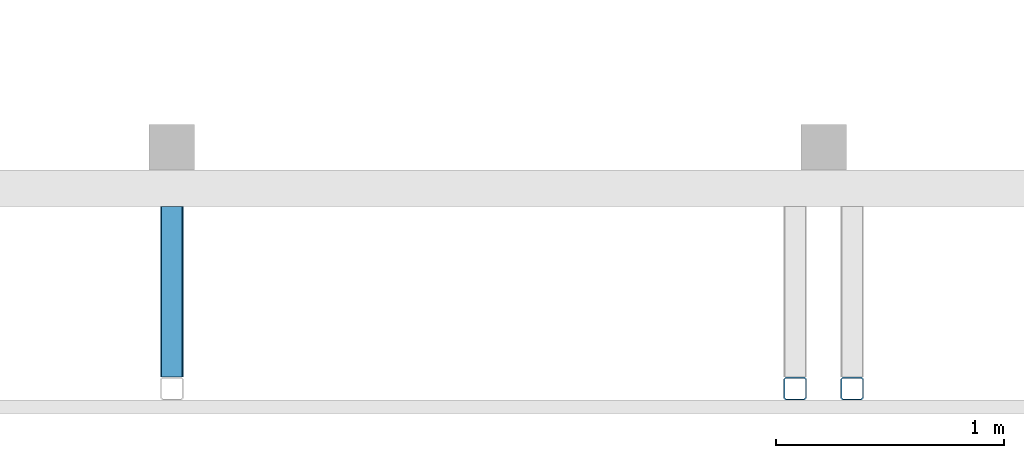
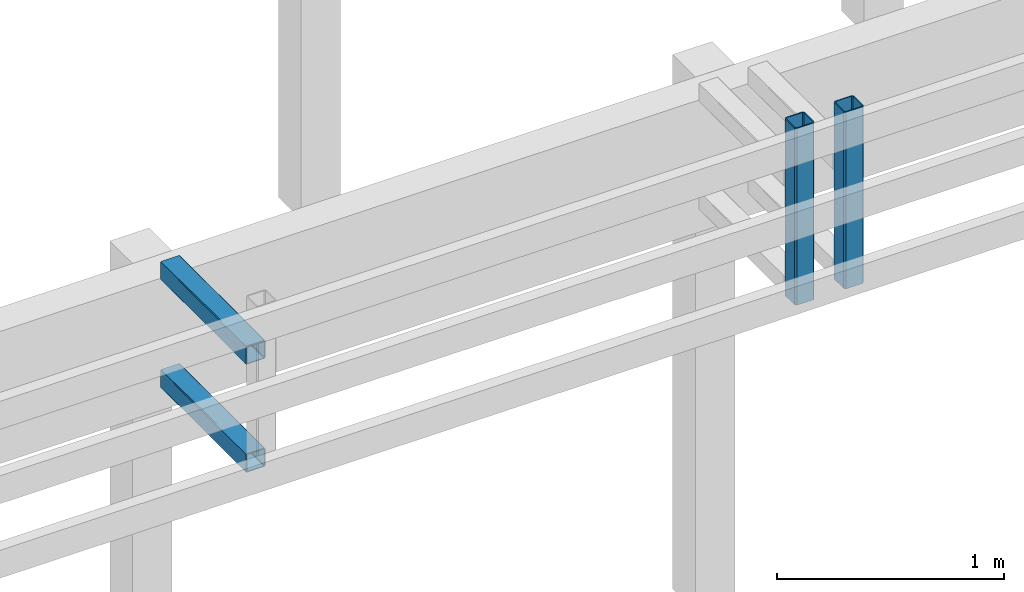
# One storey, part 5 of 42: 4 members.
"""IFC4 building model written with IfcOpenShell, lengths in metres."""

from ifc_helpers import new_model, entity, si_unit, converted_unit, derived_unit, frame, origin, place, context, subcontext, project, spatial, faceted_brep, material, element, save


model = new_model("IFC4")

# Units and contexts
model_context = context("Model", 3, precision=1e-05, world=origin())
plan_context = context("Plan", 2, precision=1e-05, world=origin())
body_context = subcontext(model_context, "Body", "Model", "MODEL_VIEW")
ifc_project = project(units=[si_unit("LENGTHUNIT", "METRE"), si_unit("AREAUNIT", "SQUARE_METRE"), si_unit("VOLUMEUNIT", "CUBIC_METRE"), si_unit("MASSUNIT", "GRAM", prefix="KILO"), converted_unit("PLANEANGLEUNIT", "DEGREE", entity("IfcPlaneAngleMeasure", 0.0174532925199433), si_unit("PLANEANGLEUNIT", "RADIAN"), dimensions=[0, 0, 0, 0, 0, 0, 0]), derived_unit("THERMALTRANSMITTANCEUNIT", [(si_unit("POWERUNIT", "WATT"), 1), (si_unit("THERMODYNAMICTEMPERATUREUNIT", "KELVIN"), -1), (si_unit("LENGTHUNIT", "METRE"), -2)]), derived_unit("VOLUMETRICFLOWRATEUNIT", [(si_unit("LENGTHUNIT", "METRE"), 3), (converted_unit("TIMEUNIT", "hour", entity("IfcTimeMeasure", 3600.0), si_unit("TIMEUNIT", "SECOND"), dimensions=[0, 0, 1, 0, 0, 0, 0]), -1), (si_unit("LENGTHUNIT", "METRE"), -1)])], contexts=[model_context, plan_context])

# Site, building, storey
site_placement = place(None, origin())
site = spatial("IfcSite", under=ifc_project, at=site_placement, Name="Site", CompositionType="ELEMENT")
building_placement = place(site_placement, origin())
building = spatial("IfcBuilding", under=site, at=building_placement, Name="Admin", CompositionType="ELEMENT")
storey_placement = place(building_placement, frame((0.0, 0.0, 6.61)))
storey = spatial("IfcBuildingStorey", under=building, at=storey_placement, Name="02-Etage2", CompositionType="ELEMENT", Elevation=6.61)

# Members
ifc_material_1 = material(Name="S235")
member_1_placement = place(storey_placement, frame((29.7448010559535, 11.0194493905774, 2.28)))
element("IfcMember", 1, at=member_1_placement, inside=storey, material=ifc_material_1, Name="Bandeau R+2", context=body_context, shape_type="Brep", body=[
    faceted_brep([(0.01, 0.095, 0.0), (0.01, 0.095, 0.95), (0.09, 0.095, 0.95), (0.09, 0.095, 0.0), (0.005, 0.09, 0.0), (0.005, 0.09, 0.95), (0.005, 0.01, 0.0), (0.005, 0.01, 0.95), (0.01, 0.005, 0.0), (0.01, 0.005, 0.95), (0.09, 0.005, 0.0), (0.09, 0.005, 0.95), (0.095, 0.01, 0.0), (0.095, 0.01, 0.95), (0.095, 0.09, 0.0), (0.095, 0.09, 0.95), (0.1, 0.0925, 0.0), (0.1, 0.0925, 0.95), (0.0925, 0.1, 0.95), (0.0925, 0.1, 0.0), (0.1, 0.0075, 0.0), (0.1, 0.0075, 0.95), (0.0925, 0.0, 0.0), (0.0925, 0.0, 0.95), (0.0075, 0.0, 0.0), (0.0075, 0.0, 0.95), (0.0, 0.0075, 0.0), (0.0, 0.0075, 0.95), (0.0, 0.0925, 0.0), (0.0, 0.0925, 0.95), (0.0075, 0.1, 0.0), (0.0075, 0.1, 0.95)], [[[0, 1, 2, 3]], [[4, 5, 1, 0]], [[6, 7, 5, 4]], [[8, 9, 7, 6]], [[10, 11, 9, 8]], [[12, 13, 11, 10]], [[14, 15, 13, 12]], [[3, 2, 15, 14]], [[16, 17, 18, 19]], [[20, 21, 17, 16]], [[22, 23, 21, 20]], [[24, 25, 23, 22]], [[26, 27, 25, 24]], [[28, 29, 27, 26]], [[30, 31, 29, 28]], [[19, 18, 31, 30]], [[18, 17, 21, 23, 25, 27, 29, 31], [2, 1, 5, 7, 9, 11, 13, 15]], [[19, 30, 28, 26, 24, 22, 20, 16], [3, 14, 12, 10, 8, 6, 4, 0]]], orient=[[False], [False], [False], [False], [False], [False], [False], [False], [False], [False], [False], [False], [False], [False], [False], [False], [False, False], [False, False]]),
])
ifc_material_2 = material(Name="S235")
member_2_placement = place(storey_placement, frame((29.4948010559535, 11.0194493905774, 2.28)))
element("IfcMember", 2, at=member_2_placement, inside=storey, material=ifc_material_2, Name="Bandeau R+2", context=body_context, shape_type="Brep", body=[
    faceted_brep([(0.01, 0.095, 0.0), (0.01, 0.095, 0.95), (0.09, 0.095, 0.95), (0.09, 0.095, 0.0), (0.005, 0.09, 0.0), (0.005, 0.09, 0.95), (0.005, 0.01, 0.0), (0.005, 0.01, 0.95), (0.01, 0.005, 0.0), (0.01, 0.005, 0.95), (0.09, 0.005, 0.0), (0.09, 0.005, 0.95), (0.095, 0.01, 0.0), (0.095, 0.01, 0.95), (0.095, 0.09, 0.0), (0.095, 0.09, 0.95), (0.1, 0.0925, 0.0), (0.1, 0.0925, 0.95), (0.0925, 0.1, 0.95), (0.0925, 0.1, 0.0), (0.1, 0.0075, 0.0), (0.1, 0.0075, 0.95), (0.0925, 0.0, 0.0), (0.0925, 0.0, 0.95), (0.0075, 0.0, 0.0), (0.0075, 0.0, 0.95), (0.0, 0.0075, 0.0), (0.0, 0.0075, 0.95), (0.0, 0.0925, 0.0), (0.0, 0.0925, 0.95), (0.0075, 0.1, 0.0), (0.0075, 0.1, 0.95)], [[[0, 1, 2, 3]], [[4, 5, 1, 0]], [[6, 7, 5, 4]], [[8, 9, 7, 6]], [[10, 11, 9, 8]], [[12, 13, 11, 10]], [[14, 15, 13, 12]], [[3, 2, 15, 14]], [[16, 17, 18, 19]], [[20, 21, 17, 16]], [[22, 23, 21, 20]], [[24, 25, 23, 22]], [[26, 27, 25, 24]], [[28, 29, 27, 26]], [[30, 31, 29, 28]], [[19, 18, 31, 30]], [[18, 17, 21, 23, 25, 27, 29, 31], [2, 1, 5, 7, 9, 11, 13, 15]], [[19, 30, 28, 26, 24, 22, 20, 16], [3, 14, 12, 10, 8, 6, 4, 0]]], orient=[[False], [False], [False], [False], [False], [False], [False], [False], [False], [False], [False], [False], [False], [False], [False], [False], [False, False], [False, False]]),
])
ifc_material_3 = material(Name="S235")
member_3_placement = place(storey_placement, frame((26.7598010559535, 11.1194493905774, 2.86)))
element("IfcMember", 3, at=member_3_placement, inside=storey, material=ifc_material_3, Name="Bandeau R+2", context=body_context, shape_type="Brep", body=[
    faceted_brep([(0.095, 0.0, 0.09), (0.095, 0.0, 0.01), (0.0950000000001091, 0.74999999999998, 0.01), (0.0950000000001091, 0.74999999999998, 0.09), (0.0949240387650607, 0.0, 0.0908682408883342), (0.0949240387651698, 0.74999999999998, 0.0908682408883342), (0.0946984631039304, 0.0, 0.0917101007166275), (0.0946984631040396, 0.74999999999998, 0.0917101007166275), (0.0943301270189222, 0.0, 0.0925), (0.0943301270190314, 0.74999999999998, 0.0925), (0.0938302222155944, 0.0, 0.0932139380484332), (0.0938302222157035, 0.74999999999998, 0.0932139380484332), (0.0932139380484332, 1.81898940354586e-15, 0.0938302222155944), (0.0932139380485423, 0.749999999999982, 0.0938302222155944), (0.0925, 1.81898940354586e-15, 0.0943301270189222), (0.0925000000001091, 0.749999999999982, 0.0943301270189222), (0.0917101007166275, 1.81898940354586e-15, 0.0946984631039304), (0.0917101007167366, 0.749999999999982, 0.0946984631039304), (0.090868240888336, 1.81898940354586e-15, 0.0949240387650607), (0.0908682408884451, 0.749999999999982, 0.0949240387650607), (0.09, 1.81898940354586e-15, 0.095), (0.0900000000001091, 0.749999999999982, 0.095), (0.01, 1.2732925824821e-14, 0.095), (0.0100000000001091, 0.749999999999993, 0.095), (0.009131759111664, 1.2732925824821e-14, 0.0949240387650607), (0.00913175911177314, 0.749999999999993, 0.0949240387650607), (0.00828989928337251, 1.2732925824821e-14, 0.0946984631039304), (0.00828989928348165, 0.749999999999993, 0.0946984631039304), (0.0075, 1.2732925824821e-14, 0.0943301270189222), (0.00750000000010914, 0.749999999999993, 0.0943301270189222), (0.00678606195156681, 1.2732925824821e-14, 0.0938302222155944), (0.00678606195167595, 0.749999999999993, 0.0938302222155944), (0.0061697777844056, 1.45519152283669e-14, 0.0932139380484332), (0.00616977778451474, 0.749999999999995, 0.0932139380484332), (0.00566987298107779, 1.45519152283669e-14, 0.0925), (0.00566987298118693, 0.749999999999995, 0.0925), (0.00530153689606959, 1.45519152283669e-14, 0.0917101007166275), (0.00530153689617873, 0.749999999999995, 0.0917101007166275), (0.00507596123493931, 1.45519152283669e-14, 0.0908682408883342), (0.00507596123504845, 0.749999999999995, 0.0908682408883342), (0.005, 1.45519152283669e-14, 0.09), (0.00500000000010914, 0.749999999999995, 0.09), (0.005, 1.45519152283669e-14, 0.01), (0.00500000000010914, 0.749999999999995, 0.01), (0.00507596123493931, 1.45519152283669e-14, 0.00913175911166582), (0.00507596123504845, 0.749999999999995, 0.00913175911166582), (0.00530153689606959, 1.45519152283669e-14, 0.00828989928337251), (0.00530153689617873, 0.749999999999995, 0.00828989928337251), (0.00566987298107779, 1.45519152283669e-14, 0.0075), (0.00566987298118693, 0.749999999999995, 0.0075), (0.0061697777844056, 1.45519152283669e-14, 0.00678606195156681), (0.00616977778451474, 0.749999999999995, 0.00678606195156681), (0.00678606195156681, 1.2732925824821e-14, 0.0061697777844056), (0.00678606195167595, 0.749999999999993, 0.0061697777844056), (0.0075, 1.2732925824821e-14, 0.00566987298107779), (0.00750000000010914, 0.749999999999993, 0.00566987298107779), (0.00828989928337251, 1.2732925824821e-14, 0.00530153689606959), (0.00828989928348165, 0.749999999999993, 0.00530153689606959), (0.009131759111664, 1.2732925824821e-14, 0.00507596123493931), (0.00913175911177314, 0.749999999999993, 0.00507596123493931), (0.01, 1.2732925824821e-14, 0.005), (0.0100000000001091, 0.749999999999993, 0.005), (0.09, 1.81898940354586e-15, 0.005), (0.0900000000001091, 0.749999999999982, 0.005), (0.090868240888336, 1.81898940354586e-15, 0.00507596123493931), (0.0908682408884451, 0.749999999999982, 0.00507596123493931), (0.0917101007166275, 1.81898940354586e-15, 0.00530153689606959), (0.0917101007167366, 0.749999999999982, 0.00530153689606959), (0.0925, 1.81898940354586e-15, 0.00566987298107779), (0.0925000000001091, 0.749999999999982, 0.00566987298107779), (0.0932139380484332, 1.81898940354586e-15, 0.0061697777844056), (0.0932139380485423, 0.749999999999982, 0.0061697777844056), (0.0938302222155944, 0.0, 0.00678606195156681), (0.0938302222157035, 0.74999999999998, 0.00678606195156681), (0.0943301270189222, 0.0, 0.0075), (0.0943301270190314, 0.74999999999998, 0.0075), (0.0946984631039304, 0.0, 0.00828989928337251), (0.0946984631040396, 0.74999999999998, 0.00828989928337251), (0.0949240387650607, 0.0, 0.00913175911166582), (0.0949240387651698, 0.74999999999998, 0.00913175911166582), (0.0075, 1.2732925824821e-14, 0.1), (0.00619763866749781, 1.45519152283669e-14, 0.099886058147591), (0.00619763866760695, 0.749999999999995, 0.099886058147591), (0.00750000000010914, 0.749999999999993, 0.1), (0.0925, 1.81898940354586e-15, 0.1), (0.0925000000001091, 0.749999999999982, 0.1), (0.0938023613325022, 0.0, 0.099886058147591), (0.0938023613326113, 0.74999999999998, 0.099886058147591), (0.0950651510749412, 0.0, 0.0995476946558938), (0.0950651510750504, 0.74999999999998, 0.0995476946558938), (0.09625, 0.0, 0.0989951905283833), (0.0962500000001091, 0.74999999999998, 0.0989951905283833), (0.097320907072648, 0.0, 0.0982453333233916), (0.0973209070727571, 0.74999999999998, 0.0982453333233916), (0.0982453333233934, 0.0, 0.0973209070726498), (0.0982453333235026, 0.74999999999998, 0.0973209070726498), (0.0989951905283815, 0.0, 0.09625), (0.0989951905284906, 0.74999999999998, 0.09625), (0.0995476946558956, 0.0, 0.0950651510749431), (0.0995476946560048, 0.74999999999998, 0.0950651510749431), (0.0998860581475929, 0.0, 0.0938023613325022), (0.099886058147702, 0.74999999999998, 0.0938023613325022), (0.1, 0.0, 0.0925), (0.100000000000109, 0.74999999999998, 0.0925), (0.0998860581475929, 0.0, 0.00619763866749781), (0.1, 0.0, 0.0075), (0.100000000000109, 0.74999999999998, 0.0075), (0.099886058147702, 0.74999999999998, 0.00619763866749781), (0.0995476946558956, 0.0, 0.00493484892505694), (0.0995476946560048, 0.74999999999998, 0.00493484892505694), (0.0989951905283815, 0.0, 0.00375), (0.0989951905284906, 0.74999999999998, 0.00375), (0.0982453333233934, 0.0, 0.00267909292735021), (0.0982453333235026, 0.74999999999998, 0.00267909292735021), (0.097320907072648, 0.0, 0.00175466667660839), (0.0973209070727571, 0.74999999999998, 0.00175466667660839), (0.09625, 0.0, 0.00100480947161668), (0.0962500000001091, 0.74999999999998, 0.00100480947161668), (0.0950651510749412, 0.0, 0.000452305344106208), (0.0950651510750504, 0.74999999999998, 0.000452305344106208), (0.0938023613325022, 0.0, 0.000113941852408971), (0.0938023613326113, 0.74999999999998, 0.000113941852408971), (0.0925, 1.81898940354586e-15, 0.0), (0.0925000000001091, 0.749999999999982, 0.0), (0.0075, 1.2732925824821e-14, 0.0), (0.00750000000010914, 0.749999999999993, 0.0), (0.00619763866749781, 1.45519152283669e-14, 0.000113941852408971), (0.00619763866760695, 0.749999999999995, 0.000113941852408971), (0.00493484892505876, 1.45519152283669e-14, 0.000452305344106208), (0.0049348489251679, 0.749999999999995, 0.000452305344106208), (0.00375, 1.45519152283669e-14, 0.00100480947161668), (0.00375000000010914, 0.749999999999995, 0.00100480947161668), (0.00267909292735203, 1.45519152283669e-14, 0.00175466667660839), (0.00267909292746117, 0.749999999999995, 0.00175466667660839), (0.00175466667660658, 1.45519152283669e-14, 0.00267909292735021), (0.00175466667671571, 0.749999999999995, 0.00267909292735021), (0.0010048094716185, 1.45519152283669e-14, 0.00375), (0.00100480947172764, 0.749999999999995, 0.00375), (0.000452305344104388, 1.45519152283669e-14, 0.00493484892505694), (0.000452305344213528, 0.749999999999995, 0.00493484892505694), (0.000113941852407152, 1.45519152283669e-14, 0.00619763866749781), (0.000113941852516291, 0.749999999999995, 0.00619763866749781), (0.0, 0.0, 0.0075), (1.09139364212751e-13, 0.749999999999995, 0.0075), (0.000113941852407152, 1.45519152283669e-14, 0.0938023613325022), (0.0, 0.0, 0.0925), (1.09139364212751e-13, 0.749999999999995, 0.0925), (0.000113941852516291, 0.749999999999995, 0.0938023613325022), (0.000452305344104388, 1.45519152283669e-14, 0.0950651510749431), (0.000452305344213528, 0.749999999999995, 0.0950651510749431), (0.0010048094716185, 1.45519152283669e-14, 0.09625), (0.00100480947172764, 0.749999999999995, 0.09625), (0.00175466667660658, 1.45519152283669e-14, 0.0973209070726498), (0.00175466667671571, 0.749999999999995, 0.0973209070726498), (0.00267909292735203, 1.45519152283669e-14, 0.0982453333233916), (0.00267909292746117, 0.749999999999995, 0.0982453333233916), (0.00375, 1.45519152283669e-14, 0.0989951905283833), (0.00375000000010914, 0.749999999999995, 0.0989951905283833), (0.00493484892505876, 1.45519152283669e-14, 0.0995476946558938), (0.0049348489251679, 0.749999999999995, 0.0995476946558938)], [[[0, 1, 2, 3]], [[4, 0, 3, 5]], [[6, 4, 5, 7]], [[8, 6, 7, 9]], [[10, 8, 9, 11]], [[12, 10, 11, 13]], [[14, 12, 13, 15]], [[16, 14, 15, 17]], [[18, 16, 17, 19]], [[20, 18, 19, 21]], [[22, 20, 21, 23]], [[24, 22, 23, 25]], [[26, 24, 25, 27]], [[28, 26, 27, 29]], [[30, 28, 29, 31]], [[32, 30, 31, 33]], [[34, 32, 33, 35]], [[36, 34, 35, 37]], [[38, 36, 37, 39]], [[40, 38, 39, 41]], [[42, 40, 41, 43]], [[44, 42, 43, 45]], [[46, 44, 45, 47]], [[48, 46, 47, 49]], [[50, 48, 49, 51]], [[52, 50, 51, 53]], [[54, 52, 53, 55]], [[56, 54, 55, 57]], [[58, 56, 57, 59]], [[60, 58, 59, 61]], [[62, 60, 61, 63]], [[64, 62, 63, 65]], [[66, 64, 65, 67]], [[68, 66, 67, 69]], [[70, 68, 69, 71]], [[72, 70, 71, 73]], [[74, 72, 73, 75]], [[76, 74, 75, 77]], [[78, 76, 77, 79]], [[1, 78, 79, 2]], [[80, 81, 82, 83]], [[84, 80, 83, 85]], [[86, 84, 85, 87]], [[88, 86, 87, 89]], [[90, 88, 89, 91]], [[92, 90, 91, 93]], [[94, 92, 93, 95]], [[96, 94, 95, 97]], [[98, 96, 97, 99]], [[100, 98, 99, 101]], [[102, 100, 101, 103]], [[104, 105, 106, 107]], [[108, 104, 107, 109]], [[110, 108, 109, 111]], [[112, 110, 111, 113]], [[114, 112, 113, 115]], [[116, 114, 115, 117]], [[118, 116, 117, 119]], [[120, 118, 119, 121]], [[122, 120, 121, 123]], [[124, 122, 123, 125]], [[126, 124, 125, 127]], [[128, 126, 127, 129]], [[130, 128, 129, 131]], [[132, 130, 131, 133]], [[134, 132, 133, 135]], [[136, 134, 135, 137]], [[138, 136, 137, 139]], [[140, 138, 139, 141]], [[142, 140, 141, 143]], [[144, 145, 146, 147]], [[148, 144, 147, 149]], [[150, 148, 149, 151]], [[152, 150, 151, 153]], [[154, 152, 153, 155]], [[156, 154, 155, 157]], [[158, 156, 157, 159]], [[81, 158, 159, 82]], [[146, 143, 141, 139, 137, 135, 133, 131, 129, 127, 125, 123, 121, 119, 117, 115, 113, 111, 109, 107, 106, 103, 101, 99, 97, 95, 93, 91, 89, 87, 85, 83, 82, 159, 157, 155, 153, 151, 149, 147], [2, 79, 77, 75, 73, 71, 69, 67, 65, 63, 61, 59, 57, 55, 53, 51, 49, 47, 45, 43, 41, 39, 37, 35, 33, 31, 29, 27, 25, 23, 21, 19, 17, 15, 13, 11, 9, 7, 5, 3]], [[103, 106, 105, 102]], [[102, 105, 104, 108, 110, 112, 114, 116, 118, 120, 122, 124, 126, 128, 130, 132, 134, 136, 138, 140, 142, 145, 144, 148, 150, 152, 154, 156, 158, 81, 80, 84, 86, 88, 90, 92, 94, 96, 98, 100], [1, 0, 4, 6, 8, 10, 12, 14, 16, 18, 20, 22, 24, 26, 28, 30, 32, 34, 36, 38, 40, 42, 44, 46, 48, 50, 52, 54, 56, 58, 60, 62, 64, 66, 68, 70, 72, 74, 76, 78]], [[145, 142, 143, 146]]], orient=[[False], [False], [False], [False], [False], [False], [False], [False], [False], [False], [False], [False], [False], [False], [False], [False], [False], [False], [False], [False], [False], [False], [False], [False], [False], [False], [False], [False], [False], [False], [False], [False], [False], [False], [False], [False], [False], [False], [False], [False], [False], [False], [False], [False], [False], [False], [False], [False], [False], [False], [False], [False], [False], [False], [False], [False], [False], [False], [False], [False], [False], [False], [False], [False], [False], [False], [False], [False], [False], [False], [False], [False], [False], [False], [False], [False], [False], [False], [False, False], [False], [False, False], [False]]),
])
ifc_material_4 = material(Name="S235")
member_4_placement = place(storey_placement, frame((26.7598010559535, 11.1194493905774, 2.28)))
element("IfcMember", 4, at=member_4_placement, inside=storey, material=ifc_material_4, Name="Bandeau R+2", context=body_context, shape_type="Brep", body=[
    faceted_brep([(0.095, 0.0, 0.09), (0.095, 0.0, 0.01), (0.0950000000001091, 0.749999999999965, 0.01), (0.0950000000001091, 0.749999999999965, 0.09), (0.0949240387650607, 0.0, 0.0908682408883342), (0.0949240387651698, 0.749999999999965, 0.0908682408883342), (0.0946984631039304, 0.0, 0.0917101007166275), (0.0946984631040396, 0.749999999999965, 0.0917101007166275), (0.0943301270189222, 0.0, 0.0925), (0.0943301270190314, 0.749999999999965, 0.0925), (0.0938302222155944, 0.0, 0.0932139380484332), (0.0938302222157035, 0.749999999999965, 0.0932139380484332), (0.0932139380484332, 1.81898940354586e-15, 0.0938302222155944), (0.0932139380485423, 0.749999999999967, 0.0938302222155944), (0.0925, 1.81898940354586e-15, 0.0943301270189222), (0.0925000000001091, 0.749999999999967, 0.0943301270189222), (0.0917101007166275, 1.81898940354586e-15, 0.0946984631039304), (0.0917101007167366, 0.749999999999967, 0.0946984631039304), (0.090868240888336, 1.81898940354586e-15, 0.0949240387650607), (0.0908682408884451, 0.749999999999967, 0.0949240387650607), (0.09, 1.81898940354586e-15, 0.095), (0.0900000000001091, 0.749999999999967, 0.095), (0.01, 1.2732925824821e-14, 0.095), (0.0100000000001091, 0.749999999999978, 0.095), (0.009131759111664, 1.2732925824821e-14, 0.0949240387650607), (0.00913175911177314, 0.749999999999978, 0.0949240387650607), (0.00828989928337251, 1.2732925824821e-14, 0.0946984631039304), (0.00828989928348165, 0.749999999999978, 0.0946984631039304), (0.0075, 1.2732925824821e-14, 0.0943301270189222), (0.00750000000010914, 0.749999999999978, 0.0943301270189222), (0.00678606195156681, 1.2732925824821e-14, 0.0938302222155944), (0.00678606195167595, 0.749999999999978, 0.0938302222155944), (0.0061697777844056, 1.45519152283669e-14, 0.0932139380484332), (0.00616977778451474, 0.74999999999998, 0.0932139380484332), (0.00566987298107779, 1.45519152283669e-14, 0.0925), (0.00566987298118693, 0.74999999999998, 0.0925), (0.00530153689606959, 1.45519152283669e-14, 0.0917101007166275), (0.00530153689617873, 0.74999999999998, 0.0917101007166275), (0.00507596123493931, 1.45519152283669e-14, 0.0908682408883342), (0.00507596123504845, 0.74999999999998, 0.0908682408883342), (0.005, 1.45519152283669e-14, 0.09), (0.00500000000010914, 0.74999999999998, 0.09), (0.005, 1.45519152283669e-14, 0.01), (0.00500000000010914, 0.74999999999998, 0.01), (0.00507596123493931, 1.45519152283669e-14, 0.00913175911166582), (0.00507596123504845, 0.74999999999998, 0.00913175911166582), (0.00530153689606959, 1.45519152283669e-14, 0.00828989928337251), (0.00530153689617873, 0.74999999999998, 0.00828989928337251), (0.00566987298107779, 1.45519152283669e-14, 0.0075), (0.00566987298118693, 0.74999999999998, 0.0075), (0.0061697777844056, 1.45519152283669e-14, 0.00678606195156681), (0.00616977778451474, 0.74999999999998, 0.00678606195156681), (0.00678606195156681, 1.2732925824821e-14, 0.0061697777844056), (0.00678606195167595, 0.749999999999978, 0.0061697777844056), (0.0075, 1.2732925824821e-14, 0.00566987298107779), (0.00750000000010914, 0.749999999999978, 0.00566987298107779), (0.00828989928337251, 1.2732925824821e-14, 0.00530153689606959), (0.00828989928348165, 0.749999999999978, 0.00530153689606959), (0.009131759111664, 1.2732925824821e-14, 0.00507596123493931), (0.00913175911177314, 0.749999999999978, 0.00507596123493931), (0.01, 1.2732925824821e-14, 0.005), (0.0100000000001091, 0.749999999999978, 0.005), (0.09, 1.81898940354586e-15, 0.005), (0.0900000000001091, 0.749999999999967, 0.005), (0.090868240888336, 1.81898940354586e-15, 0.00507596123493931), (0.0908682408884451, 0.749999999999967, 0.00507596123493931), (0.0917101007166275, 1.81898940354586e-15, 0.00530153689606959), (0.0917101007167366, 0.749999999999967, 0.00530153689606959), (0.0925, 1.81898940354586e-15, 0.00566987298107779), (0.0925000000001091, 0.749999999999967, 0.00566987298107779), (0.0932139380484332, 1.81898940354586e-15, 0.0061697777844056), (0.0932139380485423, 0.749999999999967, 0.0061697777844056), (0.0938302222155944, 0.0, 0.00678606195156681), (0.0938302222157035, 0.749999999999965, 0.00678606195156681), (0.0943301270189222, 0.0, 0.0075), (0.0943301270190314, 0.749999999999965, 0.0075), (0.0946984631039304, 0.0, 0.00828989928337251), (0.0946984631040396, 0.749999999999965, 0.00828989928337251), (0.0949240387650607, 0.0, 0.00913175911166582), (0.0949240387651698, 0.749999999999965, 0.00913175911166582), (0.0075, 1.2732925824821e-14, 0.1), (0.00619763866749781, 1.45519152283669e-14, 0.099886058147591), (0.00619763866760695, 0.74999999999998, 0.099886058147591), (0.00750000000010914, 0.749999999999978, 0.1), (0.0925, 1.81898940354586e-15, 0.1), (0.0925000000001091, 0.749999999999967, 0.1), (0.0938023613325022, 0.0, 0.099886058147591), (0.0938023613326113, 0.749999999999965, 0.099886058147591), (0.0950651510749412, 0.0, 0.0995476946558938), (0.0950651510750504, 0.749999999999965, 0.0995476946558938), (0.09625, 0.0, 0.0989951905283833), (0.0962500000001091, 0.749999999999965, 0.0989951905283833), (0.097320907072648, 0.0, 0.0982453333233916), (0.0973209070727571, 0.749999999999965, 0.0982453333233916), (0.0982453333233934, 0.0, 0.0973209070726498), (0.0982453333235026, 0.749999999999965, 0.0973209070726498), (0.0989951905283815, 0.0, 0.09625), (0.0989951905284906, 0.749999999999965, 0.09625), (0.0995476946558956, 0.0, 0.0950651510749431), (0.0995476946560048, 0.749999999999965, 0.0950651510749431), (0.0998860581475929, 0.0, 0.0938023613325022), (0.099886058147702, 0.749999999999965, 0.0938023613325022), (0.1, 0.0, 0.0925), (0.100000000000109, 0.749999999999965, 0.0925), (0.0998860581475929, 0.0, 0.00619763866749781), (0.1, 0.0, 0.0075), (0.100000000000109, 0.749999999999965, 0.0075), (0.099886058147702, 0.749999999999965, 0.00619763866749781), (0.0995476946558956, 0.0, 0.00493484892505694), (0.0995476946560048, 0.749999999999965, 0.00493484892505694), (0.0989951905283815, 0.0, 0.00375), (0.0989951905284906, 0.749999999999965, 0.00375), (0.0982453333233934, 0.0, 0.00267909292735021), (0.0982453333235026, 0.749999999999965, 0.00267909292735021), (0.097320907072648, 0.0, 0.00175466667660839), (0.0973209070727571, 0.749999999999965, 0.00175466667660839), (0.09625, 0.0, 0.00100480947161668), (0.0962500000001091, 0.749999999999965, 0.00100480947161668), (0.0950651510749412, 0.0, 0.000452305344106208), (0.0950651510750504, 0.749999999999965, 0.000452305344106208), (0.0938023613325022, 0.0, 0.000113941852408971), (0.0938023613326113, 0.749999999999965, 0.000113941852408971), (0.0925, 1.81898940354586e-15, 0.0), (0.0925000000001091, 0.749999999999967, 0.0), (0.0075, 1.2732925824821e-14, 0.0), (0.00750000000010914, 0.749999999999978, 0.0), (0.00619763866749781, 1.45519152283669e-14, 0.000113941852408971), (0.00619763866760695, 0.74999999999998, 0.000113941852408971), (0.00493484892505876, 1.45519152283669e-14, 0.000452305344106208), (0.0049348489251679, 0.74999999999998, 0.000452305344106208), (0.00375, 1.45519152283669e-14, 0.00100480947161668), (0.00375000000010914, 0.74999999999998, 0.00100480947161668), (0.00267909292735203, 1.45519152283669e-14, 0.00175466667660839), (0.00267909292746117, 0.74999999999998, 0.00175466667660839), (0.00175466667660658, 1.45519152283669e-14, 0.00267909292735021), (0.00175466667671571, 0.74999999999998, 0.00267909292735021), (0.0010048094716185, 1.45519152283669e-14, 0.00375), (0.00100480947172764, 0.74999999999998, 0.00375), (0.000452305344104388, 1.45519152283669e-14, 0.00493484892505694), (0.000452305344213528, 0.74999999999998, 0.00493484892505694), (0.000113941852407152, 1.45519152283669e-14, 0.00619763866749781), (0.000113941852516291, 0.74999999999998, 0.00619763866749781), (0.0, 0.0, 0.0075), (1.09139364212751e-13, 0.74999999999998, 0.0075), (0.000113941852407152, 1.45519152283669e-14, 0.0938023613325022), (0.0, 0.0, 0.0925), (1.09139364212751e-13, 0.74999999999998, 0.0925), (0.000113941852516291, 0.74999999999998, 0.0938023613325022), (0.000452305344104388, 1.45519152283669e-14, 0.0950651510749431), (0.000452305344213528, 0.74999999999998, 0.0950651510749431), (0.0010048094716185, 1.45519152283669e-14, 0.09625), (0.00100480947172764, 0.74999999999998, 0.09625), (0.00175466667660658, 1.45519152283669e-14, 0.0973209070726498), (0.00175466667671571, 0.74999999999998, 0.0973209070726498), (0.00267909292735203, 1.45519152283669e-14, 0.0982453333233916), (0.00267909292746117, 0.74999999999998, 0.0982453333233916), (0.00375, 1.45519152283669e-14, 0.0989951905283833), (0.00375000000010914, 0.74999999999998, 0.0989951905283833), (0.00493484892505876, 1.45519152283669e-14, 0.0995476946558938), (0.0049348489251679, 0.74999999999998, 0.0995476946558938)], [[[0, 1, 2, 3]], [[4, 0, 3, 5]], [[6, 4, 5, 7]], [[8, 6, 7, 9]], [[10, 8, 9, 11]], [[12, 10, 11, 13]], [[14, 12, 13, 15]], [[16, 14, 15, 17]], [[18, 16, 17, 19]], [[20, 18, 19, 21]], [[22, 20, 21, 23]], [[24, 22, 23, 25]], [[26, 24, 25, 27]], [[28, 26, 27, 29]], [[30, 28, 29, 31]], [[32, 30, 31, 33]], [[34, 32, 33, 35]], [[36, 34, 35, 37]], [[38, 36, 37, 39]], [[40, 38, 39, 41]], [[42, 40, 41, 43]], [[44, 42, 43, 45]], [[46, 44, 45, 47]], [[48, 46, 47, 49]], [[50, 48, 49, 51]], [[52, 50, 51, 53]], [[54, 52, 53, 55]], [[56, 54, 55, 57]], [[58, 56, 57, 59]], [[60, 58, 59, 61]], [[62, 60, 61, 63]], [[64, 62, 63, 65]], [[66, 64, 65, 67]], [[68, 66, 67, 69]], [[70, 68, 69, 71]], [[72, 70, 71, 73]], [[74, 72, 73, 75]], [[76, 74, 75, 77]], [[78, 76, 77, 79]], [[1, 78, 79, 2]], [[80, 81, 82, 83]], [[84, 80, 83, 85]], [[86, 84, 85, 87]], [[88, 86, 87, 89]], [[90, 88, 89, 91]], [[92, 90, 91, 93]], [[94, 92, 93, 95]], [[96, 94, 95, 97]], [[98, 96, 97, 99]], [[100, 98, 99, 101]], [[102, 100, 101, 103]], [[104, 105, 106, 107]], [[108, 104, 107, 109]], [[110, 108, 109, 111]], [[112, 110, 111, 113]], [[114, 112, 113, 115]], [[116, 114, 115, 117]], [[118, 116, 117, 119]], [[120, 118, 119, 121]], [[122, 120, 121, 123]], [[124, 122, 123, 125]], [[126, 124, 125, 127]], [[128, 126, 127, 129]], [[130, 128, 129, 131]], [[132, 130, 131, 133]], [[134, 132, 133, 135]], [[136, 134, 135, 137]], [[138, 136, 137, 139]], [[140, 138, 139, 141]], [[142, 140, 141, 143]], [[144, 145, 146, 147]], [[148, 144, 147, 149]], [[150, 148, 149, 151]], [[152, 150, 151, 153]], [[154, 152, 153, 155]], [[156, 154, 155, 157]], [[158, 156, 157, 159]], [[81, 158, 159, 82]], [[146, 143, 141, 139, 137, 135, 133, 131, 129, 127, 125, 123, 121, 119, 117, 115, 113, 111, 109, 107, 106, 103, 101, 99, 97, 95, 93, 91, 89, 87, 85, 83, 82, 159, 157, 155, 153, 151, 149, 147], [2, 79, 77, 75, 73, 71, 69, 67, 65, 63, 61, 59, 57, 55, 53, 51, 49, 47, 45, 43, 41, 39, 37, 35, 33, 31, 29, 27, 25, 23, 21, 19, 17, 15, 13, 11, 9, 7, 5, 3]], [[103, 106, 105, 102]], [[102, 105, 104, 108, 110, 112, 114, 116, 118, 120, 122, 124, 126, 128, 130, 132, 134, 136, 138, 140, 142, 145, 144, 148, 150, 152, 154, 156, 158, 81, 80, 84, 86, 88, 90, 92, 94, 96, 98, 100], [1, 0, 4, 6, 8, 10, 12, 14, 16, 18, 20, 22, 24, 26, 28, 30, 32, 34, 36, 38, 40, 42, 44, 46, 48, 50, 52, 54, 56, 58, 60, 62, 64, 66, 68, 70, 72, 74, 76, 78]], [[145, 142, 143, 146]]], orient=[[False], [False], [False], [False], [False], [False], [False], [False], [False], [False], [False], [False], [False], [False], [False], [False], [False], [False], [False], [False], [False], [False], [False], [False], [False], [False], [False], [False], [False], [False], [False], [False], [False], [False], [False], [False], [False], [False], [False], [False], [False], [False], [False], [False], [False], [False], [False], [False], [False], [False], [False], [False], [False], [False], [False], [False], [False], [False], [False], [False], [False], [False], [False], [False], [False], [False], [False], [False], [False], [False], [False], [False], [False], [False], [False], [False], [False], [False], [False, False], [False], [False, False], [False]]),
])

save(model, "model.ifc")
